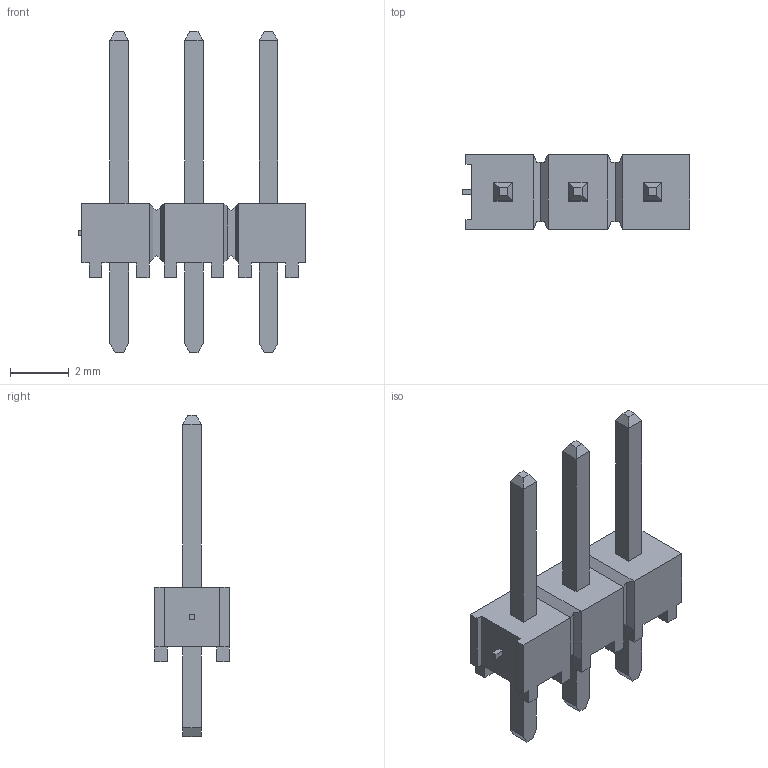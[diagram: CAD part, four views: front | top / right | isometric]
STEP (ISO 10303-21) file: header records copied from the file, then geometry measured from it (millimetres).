
FILE_DESCRIPTION(('FreeCAD Model'),'2;1');
FILE_NAME('C:/Users/cr185092/Documents/KiCAD_Projects/VORON_V2.0_Expander_option2/VORON_V2.0.pretty/3D_Models\PIN_HEADER_TOP_1X3.step', '2017-11-19T12:31:02',('kicad StepUp'),('ksu MCAD'), 'Open CASCADE STEP processor 6.8','FreeCAD','Unknown');
FILE_SCHEMA(('AUTOMOTIVE_DESIGN_CC2 { 1 2 10303 214 -1 1 5 4 }'));
Length unit declared in the file: millimetre
Products named in the file (1): PIN_HEADER_TOP_1X3
Bounding box: 7.75 x 2.54 x 10.92 mm (x, y, z)
Volume: 48.9 mm3; surface area: 159.3 mm2
Topology: 1 solids, 1 shells, 139 faces, 354 edges, 224 vertices
Faces by surface type: plane 139
Entity records: 5046 total; most frequent: CARTESIAN_POINT 718, ORIENTED_EDGE 708, DIRECTION 634, EDGE_CURVE 354, LINE 354, VECTOR 354, VERTEX_POINT 224, FACE_BOUND 146
